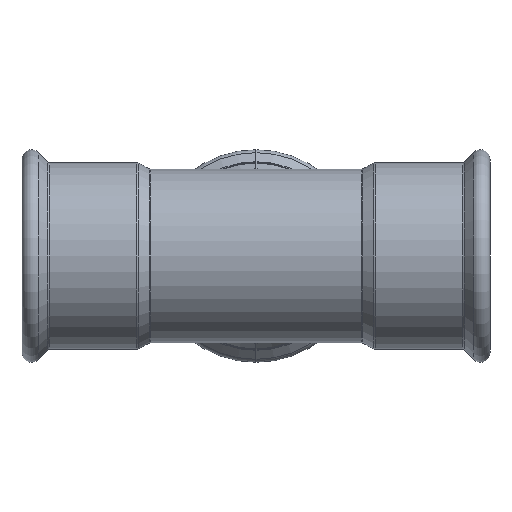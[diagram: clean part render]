
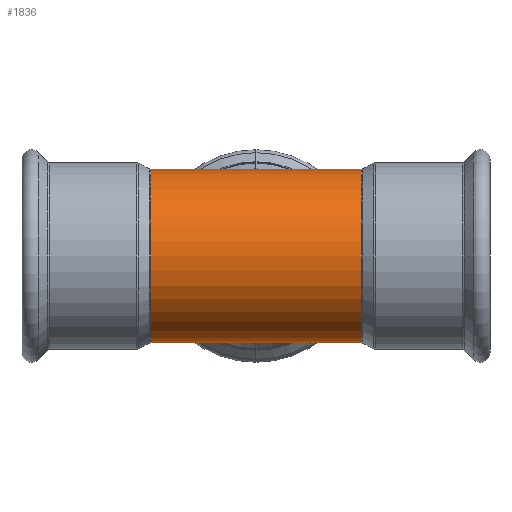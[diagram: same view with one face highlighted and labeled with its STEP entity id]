
A CAD part, front view. The second image highlights one B-rep face of the part: STEP entity #1836.
In plain terms, the highlighted cylindrical face has radius 26.7 mm (diameter 53.4 mm), a partial arc.
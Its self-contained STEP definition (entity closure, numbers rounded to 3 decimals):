
#70 = DIRECTION ( 'NONE',  ( 0., 0., 1. ) ) ;
#101 = LINE ( 'NONE', #2321, #4081 ) ;
#359 = VECTOR ( 'NONE', #3570, 1000. ) ;
#373 = CIRCLE ( 'NONE', #916, 26.7 ) ;
#421 = EDGE_CURVE ( 'NONE', #3628, #526, #3451, .T. ) ;
#477 = CIRCLE ( 'NONE', #1413, 26.7 ) ;
#511 = DIRECTION ( 'NONE',  ( -1., 0., 0. ) ) ;
#526 = VERTEX_POINT ( 'NONE', #877 ) ;
#536 = EDGE_CURVE ( 'NONE', #1587, #3628, #477, .T. ) ;
#678 = VERTEX_POINT ( 'NONE', #1821 ) ;
#770 = EDGE_CURVE ( 'NONE', #1529, #678, #1278, .T. ) ;
#877 = CARTESIAN_POINT ( 'NONE',  ( 0., 0., 26.7 ) ) ;
#916 = AXIS2_PLACEMENT_3D ( 'NONE', #2949, #4005, #70 ) ;
#963 = CARTESIAN_POINT ( 'NONE',  ( 0., 0., -26.7 ) ) ;
#1055 = FACE_OUTER_BOUND ( 'NONE', #1440, .T. ) ;
#1115 = ORIENTED_EDGE ( 'NONE', *, *, #536, .T. ) ;
#1133 = CARTESIAN_POINT ( 'NONE',  ( 32.377, 0., 26.7 ) ) ;
#1278 = LINE ( 'NONE', #963, #359 ) ;
#1374 = ORIENTED_EDGE ( 'NONE', *, *, #2946, .T. ) ;
#1413 = AXIS2_PLACEMENT_3D ( 'NONE', #1791, #511, #2157 ) ;
#1440 = EDGE_LOOP ( 'NONE', ( #3191, #1115, #3685, #1374, #3403, #2904 ) ) ;
#1487 = VECTOR ( 'NONE', #3299, 1000. ) ;
#1529 = VERTEX_POINT ( 'NONE', #3306 ) ;
#1582 = VERTEX_POINT ( 'NONE', #1710 ) ;
#1587 = VERTEX_POINT ( 'NONE', #3328 ) ;
#1710 = CARTESIAN_POINT ( 'NONE',  ( -32.377, 0., 26.7 ) ) ;
#1791 = CARTESIAN_POINT ( 'NONE',  ( 32.377, 0., 0. ) ) ;
#1821 = CARTESIAN_POINT ( 'NONE',  ( -32.377, 0., -26.7 ) ) ;
#1836 = ADVANCED_FACE ( 'NONE', ( #1055 ), #3441, .T. ) ;
#1892 = LINE ( 'NONE', #2570, #3253 ) ;
#2113 = DIRECTION ( 'NONE',  ( 0., 0., 1. ) ) ;
#2157 = DIRECTION ( 'NONE',  ( 0., 0., 1. ) ) ;
#2321 = CARTESIAN_POINT ( 'NONE',  ( 0., 0., -26.7 ) ) ;
#2422 = DIRECTION ( 'NONE',  ( -1., 0., 0. ) ) ;
#2542 = EDGE_CURVE ( 'NONE', #1587, #1529, #101, .T. ) ;
#2570 = CARTESIAN_POINT ( 'NONE',  ( 0., 0., 26.7 ) ) ;
#2673 = DIRECTION ( 'NONE',  ( -1., 0., 0. ) ) ;
#2763 = CARTESIAN_POINT ( 'NONE',  ( 0., 0., 0. ) ) ;
#2904 = ORIENTED_EDGE ( 'NONE', *, *, #770, .F. ) ;
#2946 = EDGE_CURVE ( 'NONE', #526, #1582, #1892, .T. ) ;
#2949 = CARTESIAN_POINT ( 'NONE',  ( -32.377, 0., 0. ) ) ;
#3191 = ORIENTED_EDGE ( 'NONE', *, *, #2542, .F. ) ;
#3253 = VECTOR ( 'NONE', #3881, 1000. ) ;
#3299 = DIRECTION ( 'NONE',  ( -1., 0., 0. ) ) ;
#3306 = CARTESIAN_POINT ( 'NONE',  ( 0., 0., -26.7 ) ) ;
#3328 = CARTESIAN_POINT ( 'NONE',  ( 32.377, 0., -26.7 ) ) ;
#3381 = CARTESIAN_POINT ( 'NONE',  ( 0., 0., 26.7 ) ) ;
#3403 = ORIENTED_EDGE ( 'NONE', *, *, #4113, .T. ) ;
#3441 = CYLINDRICAL_SURFACE ( 'NONE', #4098, 26.7 ) ;
#3451 = LINE ( 'NONE', #3381, #1487 ) ;
#3570 = DIRECTION ( 'NONE',  ( -1., 0., 0. ) ) ;
#3628 = VERTEX_POINT ( 'NONE', #1133 ) ;
#3685 = ORIENTED_EDGE ( 'NONE', *, *, #421, .T. ) ;
#3881 = DIRECTION ( 'NONE',  ( -1., 0., 0. ) ) ;
#4005 = DIRECTION ( 'NONE',  ( 1., 0., 0. ) ) ;
#4081 = VECTOR ( 'NONE', #2673, 1000. ) ;
#4098 = AXIS2_PLACEMENT_3D ( 'NONE', #2763, #2422, #2113 ) ;
#4113 = EDGE_CURVE ( 'NONE', #1582, #678, #373, .T. ) ;
